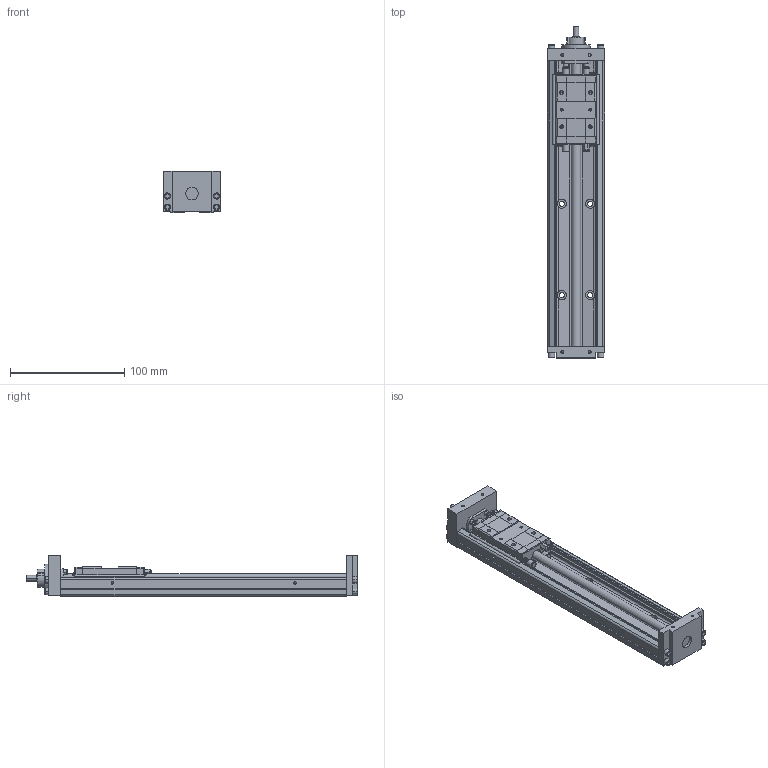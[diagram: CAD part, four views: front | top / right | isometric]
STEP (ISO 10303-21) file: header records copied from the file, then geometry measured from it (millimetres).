
FILE_DESCRIPTION(('no description'),'unknown implementation level');
FILE_NAME('KK5002P250A1H0000_FILE_13.stp',' ',('HIWIN GmbH'),('CADClick - KiM GmbH - www.kimweb.de'),'unknown preprocess','ACIS','unknown authorization');
FILE_SCHEMA(('automotive_design'));
Length unit declared in the file: millimetre
Products named in the file (2): KK50_FILE; KK5002P250A1H0000_FILE
Bounding box: 50 x 290.5 x 36 mm (x, y, z)
Volume: 207358.3 mm3; surface area: 67921.1 mm2
Topology: 2 solids, 10 shells, 632 faces, 1584 edges, 1003 vertices
Faces by surface type: plane 373, cylinder 175, cone 42, torus 42
Entity records: 37084 total; most frequent: CARTESIAN_POINT 3759, DIRECTION 3300, STYLED_ITEM 3195, PRESENTATION_STYLE_ASSIGNMENT 3195, COLOUR_RGB 3195, ORIENTED_EDGE 3116, EDGE_CURVE 1558, CURVE_STYLE 1558
